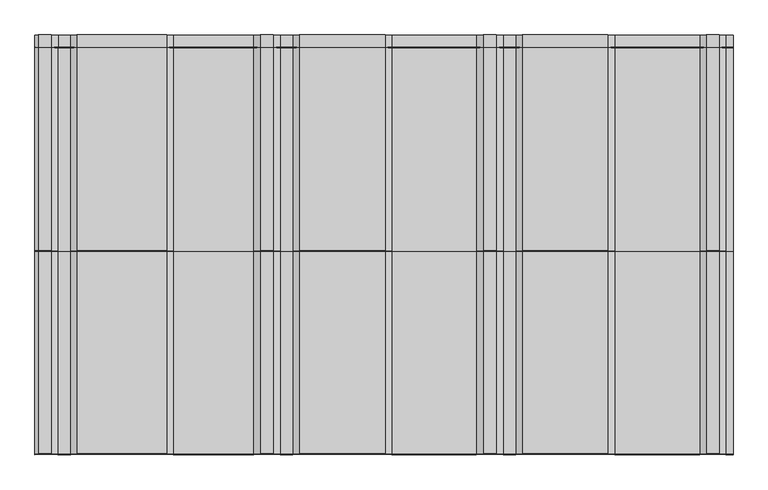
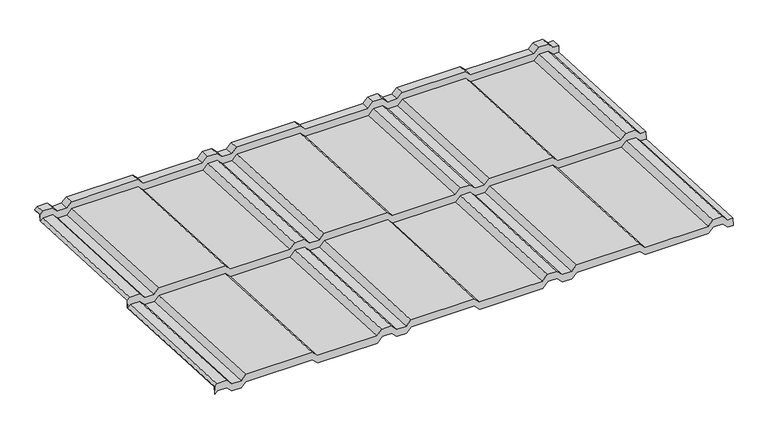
"""IFC4 building model written with IfcOpenShell, lengths in millimetres: proxy geometry, AQUAPLAST - Blachodachówka Alice : Blachodachówka Alice."""

from ifc_helpers import new_model, si_unit, origin, place, context, project, spatial, faceted_brep, source, transform, mapped, element, save


def specialty_equipment_c63bc7cf(model_context):
    return source(origin(), model_context, "Body", "Brep", [
        faceted_brep([(-571.7598776, 0.6696996, 73.5766757), (-565.8406904, 0.9640097, 79.4885417), (-543.7088996, 0.9640097, 79.4885417), (-532.2088996, 0.3922139, 68.0027657), (-510.4160064, 0.3922139, 68.0027657), (-499.4160064, 0.939149, 78.9891601), (-345.3126919, 0.939149, 78.9891601), (-333.8126919, 0.3673532, 67.5033841), (-195.7283858, 0.3673532, 67.5033841), (-183.7283858, 0.9640097, 79.4885417), (-161.9160064, 0.9640097, 79.4885417), (-149.9160064, 0.3673532, 67.5033841), (-127.9160064, 0.3673532, 67.5033841), (-116.4160064, 0.939149, 78.9891601), (30.3015709, 0.939149, 78.9891601), (41.8015709, 0.3673532, 67.5033841), (187.7172647, 0.3673532, 67.5033841), (199.7172647, 0.9640097, 79.4885417), (221.5296441, 0.9640097, 79.4885417), (233.5296441, 0.3673532, 67.5033841), (255.5296441, 0.3673532, 67.5033841), (267.0296441, 0.939149, 78.9891601), (413.7472214, 0.939149, 78.9891601), (425.2472214, 0.3673532, 67.5033841), (571.8664164, 0.3673532, 67.5033841), (583.3664164, 0.939149, 78.9891601), (605.0839936, 0.939149, 78.9891601), (616.5839936, 0.3673532, 67.5033841), (629.2401224, 0.3673532, 67.5033841), (629.2401224, -0.4629937, 50.8240399), (616.5839936, -0.4629937, 50.8240399), (605.0839936, 0.1088021, 62.3098159), (583.3664164, 0.1088021, 62.3098159), (571.8664164, -0.4629937, 50.8240399), (425.2472214, -0.4629937, 50.8240399), (413.7472214, 0.1088021, 62.3098159), (267.0296441, 0.1088021, 62.3098159), (255.5296441, -0.4629937, 50.8240399), (233.5296441, -0.4629937, 50.8240399), (221.5296441, 0.1336628, 62.8091974), (199.7172647, 0.1336628, 62.8091974), (187.7172647, -0.4629937, 50.8240399), (41.8015709, -0.4629937, 50.8240399), (30.3015709, 0.1088021, 62.3098159), (-116.4160064, 0.1088021, 62.3098159), (-127.9160064, -0.4629937, 50.8240399), (-149.9160064, -0.4629937, 50.8240399), (-161.9160064, 0.1336628, 62.8091974), (-183.7283858, 0.1336628, 62.8091974), (-195.7283858, -0.4629937, 50.8240399), (-333.8126919, -0.4629937, 50.8240399), (-345.3126919, 0.1088021, 62.3098159), (-499.4160064, 0.1088021, 62.3098159), (-510.4160064, -0.438133, 51.3234215), (-532.2088996, -0.438133, 51.3234215), (-543.7088996, 0.1336628, 62.8091974), (-565.8406904, 0.1336628, 62.8091974), (-571.7598776, -0.1606473, 56.8973315), (-566.0477972, 699.809845, 79.1155052), (-571.7598776, 699.5258325, 73.4104899), (-571.7598776, 698.711645, 57.0557437), (-566.0477972, 698.9956575, 62.760759), (-543.5017928, 698.9956575, 62.760759), (-532.0017928, 698.4238617, 51.274983), (-510.6231132, 698.4238617, 51.274983), (-499.6231132, 698.9707968, 62.2613774), (-345.1055852, 698.9707968, 62.2613774), (-333.6055852, 698.399001, 50.7756015), (-195.9354926, 698.399001, 50.7756015), (-183.9354926, 698.9956575, 62.760759), (-161.7088996, 698.9956575, 62.760759), (-149.7088996, 698.399001, 50.7756015), (-128.1231132, 698.399001, 50.7756015), (-116.6231132, 698.9707968, 62.2613774), (30.5086777, 698.9707968, 62.2613774), (42.0086777, 698.399001, 50.7756015), (187.5101579, 698.399001, 50.7756015), (199.5101579, 698.9956575, 62.760759), (221.7367509, 698.9956575, 62.760759), (233.7367509, 698.399001, 50.7756015), (255.3225373, 698.399001, 50.7756015), (266.8225373, 698.9707968, 62.2613774), (413.9543281, 698.9707968, 62.2613774), (425.4543281, 698.399001, 50.7756015), (571.6593096, 698.399001, 50.7756015), (583.1593096, 698.9707968, 62.2613774), (605.2911004, 698.9707968, 62.2613774), (616.7911004, 698.399001, 50.7756015), (629.2401224, 698.399001, 50.7756015), (629.2401224, 699.2131885, 67.1303477), (616.7911004, 699.2131885, 67.1303477), (605.2911004, 699.7849843, 78.6161237), (583.1593096, 699.7849843, 78.6161237), (571.6593096, 699.2131885, 67.1303477), (425.4543281, 699.2131885, 67.1303477), (413.9543281, 699.7849843, 78.6161237), (266.8225373, 699.7849843, 78.6161237), (255.3225373, 699.2131885, 67.1303477), (233.7367509, 699.2131885, 67.1303477), (221.7367509, 699.809845, 79.1155052), (199.5101579, 699.809845, 79.1155052), (187.5101579, 699.2131885, 67.1303477), (42.0086777, 699.2131885, 67.1303477), (30.5086777, 699.7849843, 78.6161237), (-116.6231132, 699.7849843, 78.6161237), (-128.1231132, 699.2131885, 67.1303477), (-149.7088996, 699.2131885, 67.1303477), (-161.7088996, 699.809845, 79.1155052), (-183.9354926, 699.809845, 79.1155052), (-195.9354926, 699.2131885, 67.1303477), (-333.6055852, 699.2131885, 67.1303477), (-345.1055852, 699.7849843, 78.6161237), (-499.6231132, 699.7849843, 78.6161237), (-510.6231132, 699.2380492, 67.6297293), (-532.0017928, 699.2380492, 67.6297293), (-543.5017928, 699.809845, 79.1155052), (-510.4160064, 720.1872142, 66.0861988), (-532.2088996, 720.1872142, 66.0861988), (-543.7088996, 720.75901, 77.5719748), (-565.8406904, 720.75901, 77.5719748), (-571.7598776, 720.4646999, 71.6601089), (-571.7598776, 720.4998582, 72.3663411), (-566.0477972, 720.7838707, 78.0713564), (-543.5017928, 720.7838707, 78.0713564), (-532.0017928, 720.2120749, 66.5855804), (-510.6231132, 720.2120749, 66.5855804), (-499.6231132, 720.75901, 77.5719748), (-345.1055852, 720.75901, 77.5719748), (-333.6055852, 720.1872142, 66.0861988), (-195.9354926, 720.1872142, 66.0861988), (-183.9354926, 720.7838707, 78.0713564), (-161.7088996, 720.7838707, 78.0713564), (-149.7088996, 720.1872142, 66.0861988), (-128.1231132, 720.1872142, 66.0861988), (-116.6231132, 720.75901, 77.5719748), (30.5086777, 720.75901, 77.5719748), (42.0086777, 720.1872142, 66.0861988), (187.5101579, 720.1872142, 66.0861988), (199.5101579, 720.7838707, 78.0713564), (221.7367509, 720.7838707, 78.0713564), (233.7367509, 720.1872142, 66.0861988), (255.3225373, 720.1872142, 66.0861988), (266.8225373, 720.75901, 77.5719748), (413.9543281, 720.75901, 77.5719748), (425.4543281, 720.1872142, 66.0861988), (571.6593096, 720.1872142, 66.0861988), (583.1593096, 720.75901, 77.5719748), (605.2911004, 720.75901, 77.5719748), (616.7911004, 720.1872142, 66.0861988), (629.2401224, 720.1872142, 66.0861988), (629.2401224, 720.1623535, 65.5868173), (616.5839936, 720.1623535, 65.5868173), (605.0839936, 720.7341493, 77.0725932), (583.3664164, 720.7341493, 77.0725932), (571.8664164, 720.1623535, 65.5868173), (425.2472214, 720.1623535, 65.5868173), (413.7472214, 720.7341493, 77.0725932), (267.0296441, 720.7341493, 77.0725932), (255.5296441, 720.1623535, 65.5868173), (233.5296441, 720.1623535, 65.5868173), (221.5296441, 720.75901, 77.5719748), (199.7172647, 720.75901, 77.5719748), (187.7172647, 720.1623535, 65.5868173), (41.8015709, 720.1623535, 65.5868173), (30.3015709, 720.7341493, 77.0725932), (-116.4160064, 720.7341493, 77.0725932), (-127.9160064, 720.1623535, 65.5868173), (-149.9160064, 720.1623535, 65.5868173), (-161.9160064, 720.75901, 77.5719748), (-183.7283858, 720.75901, 77.5719748), (-195.7283858, 720.1623535, 65.5868173), (-333.8126919, 720.1623535, 65.5868173), (-345.3126919, 720.7341493, 77.0725932), (-499.4160064, 720.7341493, 77.0725932), (-571.7598776, 699.6752498, 56.2997901), (-571.7598776, 700.4894373, 72.6545364), (-565.8406904, 700.7837474, 78.5664023), (-543.7088996, 700.7837474, 78.5664023), (-532.2088996, 700.2119516, 67.0806263), (-510.4160064, 700.2119516, 67.0806263), (-499.4160064, 700.7588868, 78.0670207), (-345.3126919, 700.7588868, 78.0670207), (-333.8126919, 700.187091, 66.5812448), (-195.7283858, 700.187091, 66.5812448), (-183.7283858, 700.7837474, 78.5664023), (-161.9160064, 700.7837474, 78.5664023), (-149.9160064, 700.187091, 66.5812448), (-127.9160064, 700.187091, 66.5812448), (-116.4160064, 700.7588868, 78.0670207), (30.3015709, 700.7588868, 78.0670207), (41.8015709, 700.187091, 66.5812448), (187.7172647, 700.187091, 66.5812448), (199.7172647, 700.7837474, 78.5664023), (221.5296441, 700.7837474, 78.5664023), (233.5296441, 700.187091, 66.5812448), (255.5296441, 700.187091, 66.5812448), (267.0296441, 700.7588868, 78.0670207), (413.7472214, 700.7588868, 78.0670207), (425.2472214, 700.187091, 66.5812448), (571.8664164, 700.187091, 66.5812448), (583.3664164, 700.7588868, 78.0670207), (605.0839936, 700.7588868, 78.0670207), (616.5839936, 700.187091, 66.5812448), (629.2401224, 700.187091, 66.5812448), (629.2401224, 699.3729035, 50.2264985), (616.5839936, 699.3729035, 50.2264985), (605.0839936, 699.9446993, 61.7122745), (583.3664164, 699.9446993, 61.7122745), (571.8664164, 699.3729035, 50.2264985), (425.2472214, 699.3729035, 50.2264985), (413.7472214, 699.9446993, 61.7122745), (267.0296441, 699.9446993, 61.7122745), (255.5296441, 699.3729035, 50.2264985), (233.5296441, 699.3729035, 50.2264985), (221.5296441, 699.9695599, 62.2116561), (199.7172647, 699.9695599, 62.2116561), (187.7172647, 699.3729035, 50.2264985), (41.8015709, 699.3729035, 50.2264985), (30.3015709, 699.9446993, 61.7122745), (-116.4160064, 699.9446993, 61.7122745), (-127.9160064, 699.3729035, 50.2264985), (-149.9160064, 699.3729035, 50.2264985), (-161.9160064, 699.9695599, 62.2116561), (-183.7283858, 699.9695599, 62.2116561), (-195.7283858, 699.3729035, 50.2264985), (-333.8126919, 699.3729035, 50.2264985), (-345.3126919, 699.9446993, 61.7122745), (-499.4160064, 699.9446993, 61.7122745), (-510.4160064, 699.3977641, 50.7258801), (-532.2088996, 699.3977641, 50.7258801), (-543.7088996, 699.9695599, 62.2116561), (-565.8406904, 699.9695599, 62.2116561), (-566.0477972, 349.4285629, 80.1632399), (-571.7598776, 349.1445504, 74.4582245), (-571.7598776, 348.2744263, 56.9798698), (-566.0477972, 348.5584388, 62.6848851), (-543.5017928, 348.5584388, 62.6848851), (-532.0017928, 347.986643, 51.1991092), (-510.6231132, 347.986643, 51.1991092), (-499.6231132, 348.5335781, 62.1855036), (-345.1055852, 348.5335781, 62.1855036), (-333.6055852, 347.9617823, 50.6997276), (-195.9354926, 347.9617823, 50.6997276), (-183.9354926, 348.5584388, 62.6848851), (-161.7088996, 348.5584388, 62.6848851), (-149.7088996, 347.9617823, 50.6997276), (-128.1231132, 347.9617823, 50.6997276), (-116.6231132, 348.5335781, 62.1855036), (30.5086777, 348.5335781, 62.1855036), (42.0086777, 347.9617823, 50.6997276), (187.5101579, 347.9617823, 50.6997276), (199.5101579, 348.5584388, 62.6848851), (221.7367509, 348.5584388, 62.6848851), (233.7367509, 347.9617823, 50.6997276), (255.3225373, 347.9617823, 50.6997276), (266.8225373, 348.5335781, 62.1855036), (413.9543281, 348.5335781, 62.1855036), (425.4543281, 347.9617823, 50.6997276), (571.6593096, 347.9617823, 50.6997276), (583.1593096, 348.5335781, 62.1855036), (605.2911004, 348.5335781, 62.1855036), (616.7911004, 347.9617823, 50.6997276), (629.2401224, 347.9617823, 50.6997276), (629.2401224, 348.8319064, 68.1780823), (616.7911004, 348.8319064, 68.1780823), (605.2911004, 349.4037022, 79.6638583), (583.1593096, 349.4037022, 79.6638583), (571.6593096, 348.8319064, 68.1780823), (425.4543281, 348.8319064, 68.1780823), (413.9543281, 349.4037022, 79.6638583), (266.8225373, 349.4037022, 79.6638583), (255.3225373, 348.8319064, 68.1780823), (233.7367509, 348.8319064, 68.1780823), (221.7367509, 349.4285629, 80.1632399), (199.5101579, 349.4285629, 80.1632399), (187.5101579, 348.8319064, 68.1780823), (42.0086777, 348.8319064, 68.1780823), (30.5086777, 349.4037022, 79.6638583), (-116.6231132, 349.4037022, 79.6638583), (-128.1231132, 348.8319064, 68.1780823), (-149.7088996, 348.8319064, 68.1780823), (-161.7088996, 349.4285629, 80.1632399), (-183.9354926, 349.4285629, 80.1632399), (-195.9354926, 348.8319064, 68.1780823), (-333.6055852, 348.8319064, 68.1780823), (-345.1055852, 349.4037022, 79.6638583), (-499.6231132, 349.4037022, 79.6638583), (-510.6231132, 348.8567671, 68.6774639), (-532.0017928, 348.8567671, 68.6774639), (-543.5017928, 349.4285629, 80.1632399), (629.2401224, 349.8058088, 67.6289794), (616.5839936, 349.8058088, 67.6289794), (605.0839936, 350.3776046, 79.1147554), (583.3664164, 350.3776046, 79.1147554), (571.8664164, 349.8058088, 67.6289794), (425.2472214, 349.8058088, 67.6289794), (413.7472214, 350.3776046, 79.1147554), (267.0296441, 350.3776046, 79.1147554), (255.5296441, 349.8058088, 67.6289794), (233.5296441, 349.8058088, 67.6289794), (221.5296441, 350.4024653, 79.6141369), (199.7172647, 350.4024653, 79.6141369), (187.7172647, 349.8058088, 67.6289794), (41.8015709, 349.8058088, 67.6289794), (30.3015709, 350.3776046, 79.1147554), (-116.4160064, 350.3776046, 79.1147554), (-127.9160064, 349.8058088, 67.6289794), (-149.9160064, 349.8058088, 67.6289794), (-161.9160064, 350.4024653, 79.6141369), (-183.7283858, 350.4024653, 79.6141369), (-195.7283858, 349.8058088, 67.6289794), (-333.8126919, 349.8058088, 67.6289794), (-345.3126919, 350.3776046, 79.1147554), (-499.4160064, 350.3776046, 79.1147554), (-510.4160064, 349.8306695, 68.128361), (-532.2088996, 349.8306695, 68.128361), (-543.7088996, 350.4024653, 79.6141369), (-565.8406904, 350.4024653, 79.6141369), (-571.7598776, 350.1081552, 73.702271), (-566.0477972, -0.0098927, 80.0376446), (-571.7598776, -0.2939052, 74.3326293), (-571.7598776, -1.1594105, 56.9470529), (-565.8406904, -0.8651003, 62.8589188), (-543.7088996, -0.8651003, 62.8589188), (-532.2088996, -1.4368961, 51.3731429), (-510.4160064, -1.4368961, 51.3731429), (-499.4160064, -0.889961, 62.3595373), (-345.3126919, -0.889961, 62.3595373), (-333.8126919, -1.4617568, 50.8737613), (-195.7283858, -1.4617568, 50.8737613), (-183.7283858, -0.8651003, 62.8589188), (-161.9160064, -0.8651003, 62.8589188), (-149.9160064, -1.4617568, 50.8737613), (-127.9160064, -1.4617568, 50.8737613), (-116.4160064, -0.889961, 62.3595373), (30.3015709, -0.889961, 62.3595373), (41.8015709, -1.4617568, 50.8737613), (187.7172647, -1.4617568, 50.8737613), (199.7172647, -0.8651003, 62.8589188), (221.5296441, -0.8651003, 62.8589188), (233.5296441, -1.4617568, 50.8737613), (255.5296441, -1.4617568, 50.8737613), (267.0296441, -0.889961, 62.3595373), (413.7472214, -0.889961, 62.3595373), (425.2472214, -1.4617568, 50.8737613), (571.8664164, -1.4617568, 50.8737613), (583.3664164, -0.889961, 62.3595373), (605.0839936, -0.889961, 62.3595373), (616.5839936, -1.4617568, 50.8737613), (629.2401224, -1.4617568, 50.8737613), (629.2401224, -0.6065492, 68.0524871), (616.7911004, -0.6065492, 68.0524871), (605.2911004, -0.0347534, 79.538263), (583.1593096, -0.0347534, 79.538263), (571.6593096, -0.6065492, 68.0524871), (425.4543281, -0.6065492, 68.0524871), (413.9543281, -0.0347534, 79.538263), (266.8225373, -0.0347534, 79.538263), (255.3225373, -0.6065492, 68.0524871), (233.7367509, -0.6065492, 68.0524871), (221.7367509, -0.0098927, 80.0376446), (199.5101579, -0.0098927, 80.0376446), (187.5101579, -0.6065492, 68.0524871), (42.0086777, -0.6065492, 68.0524871), (30.5086777, -0.0347534, 79.538263), (-116.6231132, -0.0347534, 79.538263), (-128.1231132, -0.6065492, 68.0524871), (-149.7088996, -0.6065492, 68.0524871), (-161.7088996, -0.0098927, 80.0376446), (-183.9354926, -0.0098927, 80.0376446), (-195.9354926, -0.6065492, 68.0524871), (-333.6055852, -0.6065492, 68.0524871), (-345.1055852, -0.0347534, 79.538263), (-499.6231132, -0.0347534, 79.538263), (-510.6231132, -0.5816885, 68.5518686), (-532.0017928, -0.5816885, 68.5518686), (-543.5017928, -0.0098927, 80.0376446), (-510.4160064, 348.9605455, 50.6500062), (-532.2088996, 348.9605455, 50.6500062), (-543.7088996, 349.5323413, 62.1357822), (-565.8406904, 349.5323413, 62.1357822), (-571.7598776, 349.2380311, 56.2239163), (629.2401224, 348.9356848, 50.1506247), (616.5839936, 348.9356848, 50.1506247), (605.0839936, 349.5074806, 61.6364006), (583.3664164, 349.5074806, 61.6364006), (571.8664164, 348.9356848, 50.1506247), (425.2472214, 348.9356848, 50.1506247), (413.7472214, 349.5074806, 61.6364006), (267.0296441, 349.5074806, 61.6364006), (255.5296441, 348.9356848, 50.1506247), (233.5296441, 348.9356848, 50.1506247), (221.5296441, 349.5323413, 62.1357822), (199.7172647, 349.5323413, 62.1357822), (187.7172647, 348.9356848, 50.1506247), (41.8015709, 348.9356848, 50.1506247), (30.3015709, 349.5074806, 61.6364006), (-116.4160064, 349.5074806, 61.6364006), (-127.9160064, 348.9356848, 50.1506247), (-149.9160064, 348.9356848, 50.1506247), (-161.9160064, 349.5323413, 62.1357822), (-183.7283858, 349.5323413, 62.1357822), (-195.7283858, 348.9356848, 50.1506247), (-333.8126919, 348.9356848, 50.1506247), (-345.3126919, 349.5074806, 61.6364006), (-499.4160064, 349.5074806, 61.6364006), (616.5839936, 347.9369216, 50.200346), (605.0839936, 348.5087174, 61.686122), (583.3664164, 348.5087174, 61.686122), (571.8664164, 347.9369216, 50.200346), (425.2472214, 347.9369216, 50.200346), (413.7472214, 348.5087174, 61.686122), (267.0296441, 348.5087174, 61.686122), (255.5296441, 347.9369216, 50.200346), (233.5296441, 347.9369216, 50.200346), (221.5296441, 348.5335781, 62.1855036), (199.7172647, 348.5335781, 62.1855036), (187.7172647, 347.9369216, 50.200346), (41.8015709, 347.9369216, 50.200346), (30.3015709, 348.5087174, 61.686122), (-116.4160064, 348.5087174, 61.686122), (-127.9160064, 347.9369216, 50.200346), (-149.9160064, 347.9369216, 50.200346), (-161.9160064, 348.5335781, 62.1855036), (-183.7283858, 348.5335781, 62.1855036), (-195.7283858, 347.9369216, 50.200346), (-333.8126919, 347.9369216, 50.200346), (-345.3126919, 348.5087174, 61.686122), (-499.4160064, 348.5087174, 61.686122), (-510.4160064, 347.9617823, 50.6997276), (-532.2088996, 347.9617823, 50.6997276), (-543.7088996, 348.5335781, 62.1855036), (-565.8406904, 348.5335781, 62.1855036), (-566.0477972, 700.8086081, 79.0657839), (-543.5017928, 700.8086081, 79.0657839), (-532.0017928, 700.2368123, 67.5800079), (-510.6231132, 700.2368123, 67.5800079), (-499.6231132, 700.7837474, 78.5664023), (-345.1055852, 700.7837474, 78.5664023), (-333.6055852, 700.2119516, 67.0806263), (-195.9354926, 700.2119516, 67.0806263), (-183.9354926, 700.8086081, 79.0657839), (-161.7088996, 700.8086081, 79.0657839), (-149.7088996, 700.2119516, 67.0806263), (-128.1231132, 700.2119516, 67.0806263), (-116.6231132, 700.7837474, 78.5664023), (30.5086777, 700.7837474, 78.5664023), (42.0086777, 700.2119516, 67.0806263), (187.5101579, 700.2119516, 67.0806263), (199.5101579, 700.8086081, 79.0657839), (221.7367509, 700.8086081, 79.0657839), (233.7367509, 700.2119516, 67.0806263), (255.3225373, 700.2119516, 67.0806263), (266.8225373, 700.7837474, 78.5664023), (413.9543281, 700.7837474, 78.5664023), (425.4543281, 700.2119516, 67.0806263), (571.6593096, 700.2119516, 67.0806263), (583.1593096, 700.7837474, 78.5664023), (605.2911004, 700.7837474, 78.5664023), (616.7911004, 700.2119516, 67.0806263)], [[[0, 1, 2, 3, 4, 5, 6, 7, 8, 9, 10, 11, 12, 13, 14, 15, 16, 17, 18, 19, 20, 21, 22, 23, 24, 25, 26, 27, 28, 29, 30, 31, 32, 33, 34, 35, 36, 37, 38, 39, 40, 41, 42, 43, 44, 45, 46, 47, 48, 49, 50, 51, 52, 53, 54, 55, 56, 57]], [[58, 59, 60, 61, 62, 63, 64, 65, 66, 67, 68, 69, 70, 71, 72, 73, 74, 75, 76, 77, 78, 79, 80, 81, 82, 83, 84, 85, 86, 87, 88, 89, 90, 91, 92, 93, 94, 95, 96, 97, 98, 99, 100, 101, 102, 103, 104, 105, 106, 107, 108, 109, 110, 111, 112, 113, 114, 115]], [[116, 117, 118, 119, 120, 121, 122, 123, 124, 125, 126, 127, 128, 129, 130, 131, 132, 133, 134, 135, 136, 137, 138, 139, 140, 141, 142, 143, 144, 145, 146, 147, 148, 149, 150, 151, 152, 153, 154, 155, 156, 157, 158, 159, 160, 161, 162, 163, 164, 165, 166, 167, 168, 169, 170, 171, 172, 173]], [[174, 175, 176, 177, 178, 179, 180, 181, 182, 183, 184, 185, 186, 187, 188, 189, 190, 191, 192, 193, 194, 195, 196, 197, 198, 199, 200, 201, 202, 203, 204, 205, 206, 207, 208, 209, 210, 211, 212, 213, 214, 215, 216, 217, 218, 219, 220, 221, 222, 223, 224, 225, 226, 227, 228, 229, 230, 231]], [[232, 233, 234, 235, 236, 237, 238, 239, 240, 241, 242, 243, 244, 245, 246, 247, 248, 249, 250, 251, 252, 253, 254, 255, 256, 257, 258, 259, 260, 261, 262, 263, 264, 265, 266, 267, 268, 269, 270, 271, 272, 273, 274, 275, 276, 277, 278, 279, 280, 281, 282, 283, 284, 285, 286, 287, 288, 289]], [[287, 64, 63, 288]], [[286, 65, 64, 287]], [[285, 66, 65, 286]], [[284, 67, 66, 285]], [[283, 68, 67, 284]], [[282, 69, 68, 283]], [[281, 70, 69, 282]], [[280, 71, 70, 281]], [[279, 72, 71, 280]], [[278, 73, 72, 279]], [[277, 74, 73, 278]], [[276, 75, 74, 277]], [[275, 76, 75, 276]], [[274, 77, 76, 275]], [[273, 78, 77, 274]], [[272, 79, 78, 273]], [[271, 80, 79, 272]], [[270, 81, 80, 271]], [[269, 82, 81, 270]], [[268, 83, 82, 269]], [[267, 84, 83, 268]], [[266, 85, 84, 267]], [[265, 86, 85, 266]], [[264, 87, 86, 265]], [[264, 263, 88, 87]], [[204, 290, 291, 205]], [[205, 291, 292, 206]], [[206, 292, 293, 207]], [[207, 293, 294, 208]], [[208, 294, 295, 209]], [[209, 295, 296, 210]], [[210, 296, 297, 211]], [[211, 297, 298, 212]], [[212, 298, 299, 213]], [[213, 299, 300, 214]], [[214, 300, 301, 215]], [[215, 301, 302, 216]], [[216, 302, 303, 217]], [[217, 303, 304, 218]], [[218, 304, 305, 219]], [[219, 305, 306, 220]], [[220, 306, 307, 221]], [[221, 307, 308, 222]], [[222, 308, 309, 223]], [[223, 309, 310, 224]], [[224, 310, 311, 225]], [[225, 311, 312, 226]], [[226, 312, 313, 227]], [[227, 313, 314, 228]], [[228, 314, 315, 229]], [[229, 315, 316, 230]], [[230, 316, 317, 231]], [[231, 317, 318, 174]], [[61, 60, 233, 232]], [[289, 62, 61, 232]], [[288, 63, 62, 289]], [[319, 320, 321, 322, 323, 324, 325, 326, 327, 328, 329, 330, 331, 332, 333, 334, 335, 336, 337, 338, 339, 340, 341, 342, 343, 344, 345, 346, 347, 348, 349, 350, 351, 352, 353, 354, 355, 356, 357, 358, 359, 360, 361, 362, 363, 364, 365, 366, 367, 368, 369, 370, 371, 372, 373, 374, 375, 376]], [[377, 378, 379, 380, 381, 318, 317, 316, 315, 314, 313, 312, 311, 310, 309, 308, 307, 306, 305, 304, 303, 302, 301, 300, 299, 298, 297, 296, 295, 294, 293, 292, 291, 290, 382, 383, 384, 385, 386, 387, 388, 389, 390, 391, 392, 393, 394, 395, 396, 397, 398, 399, 400, 401, 402, 403, 404, 405]], [[374, 238, 237, 375]], [[373, 239, 238, 374]], [[372, 240, 239, 373]], [[371, 241, 240, 372]], [[370, 242, 241, 371]], [[369, 243, 242, 370]], [[368, 244, 243, 369]], [[367, 245, 244, 368]], [[366, 246, 245, 367]], [[365, 247, 246, 366]], [[364, 248, 247, 365]], [[363, 249, 248, 364]], [[362, 250, 249, 363]], [[361, 251, 250, 362]], [[360, 252, 251, 361]], [[359, 253, 252, 360]], [[358, 254, 253, 359]], [[357, 255, 254, 358]], [[356, 256, 255, 357]], [[355, 257, 256, 356]], [[354, 258, 257, 355]], [[353, 259, 258, 354]], [[352, 260, 259, 353]], [[351, 261, 260, 352]], [[351, 350, 262, 261]], [[382, 28, 27, 406, 383]], [[383, 406, 27, 26, 407, 384]], [[384, 407, 26, 25, 408, 385]], [[385, 408, 25, 24, 409, 386]], [[386, 409, 24, 23, 410, 387]], [[387, 410, 23, 22, 411, 388]], [[388, 411, 22, 21, 412, 389]], [[389, 412, 21, 20, 413, 390]], [[390, 413, 20, 19, 414, 391]], [[391, 414, 19, 18, 415, 392]], [[392, 415, 18, 17, 416, 393]], [[393, 416, 17, 16, 417, 394]], [[394, 417, 16, 15, 418, 395]], [[395, 418, 15, 14, 419, 396]], [[396, 419, 14, 13, 420, 397]], [[397, 420, 13, 12, 421, 398]], [[398, 421, 12, 11, 422, 399]], [[399, 422, 11, 10, 423, 400]], [[400, 423, 10, 9, 424, 401]], [[401, 424, 9, 8, 425, 402]], [[402, 425, 8, 7, 426, 403]], [[403, 426, 7, 6, 427, 404]], [[404, 427, 6, 5, 428, 405]], [[405, 428, 5, 4, 429, 377]], [[377, 429, 4, 3, 430, 378]], [[378, 430, 3, 2, 431, 379]], [[379, 431, 2, 1, 432, 380]], [[432, 1, 0, 381, 380]], [[235, 234, 320, 319]], [[376, 236, 235, 319]], [[375, 237, 236, 376]], [[348, 30, 29, 349]], [[347, 31, 30, 348]], [[346, 32, 31, 347]], [[345, 33, 32, 346]], [[344, 34, 33, 345]], [[343, 35, 34, 344]], [[342, 36, 35, 343]], [[341, 37, 36, 342]], [[340, 38, 37, 341]], [[339, 39, 38, 340]], [[338, 40, 39, 339]], [[337, 41, 40, 338]], [[336, 42, 41, 337]], [[335, 43, 42, 336]], [[334, 44, 43, 335]], [[333, 45, 44, 334]], [[332, 46, 45, 333]], [[331, 47, 46, 332]], [[330, 48, 47, 331]], [[329, 49, 48, 330]], [[328, 50, 49, 329]], [[327, 51, 50, 328]], [[326, 52, 51, 327]], [[325, 53, 52, 326]], [[324, 54, 53, 325]], [[323, 55, 54, 324]], [[322, 56, 55, 323]], [[321, 57, 56, 322]], [[116, 179, 178, 117]], [[117, 178, 177, 118]], [[118, 177, 176, 119]], [[176, 175, 120, 119]], [[122, 121, 59, 58, 433]], [[115, 434, 123, 122, 433, 58]], [[114, 435, 124, 123, 434, 115]], [[113, 436, 125, 124, 435, 114]], [[112, 437, 126, 125, 436, 113]], [[111, 438, 127, 126, 437, 112]], [[110, 439, 128, 127, 438, 111]], [[109, 440, 129, 128, 439, 110]], [[108, 441, 130, 129, 440, 109]], [[107, 442, 131, 130, 441, 108]], [[106, 443, 132, 131, 442, 107]], [[105, 444, 133, 132, 443, 106]], [[104, 445, 134, 133, 444, 105]], [[103, 446, 135, 134, 445, 104]], [[102, 447, 136, 135, 446, 103]], [[101, 448, 137, 136, 447, 102]], [[100, 449, 138, 137, 448, 101]], [[99, 450, 139, 138, 449, 100]], [[98, 451, 140, 139, 450, 99]], [[97, 452, 141, 140, 451, 98]], [[96, 453, 142, 141, 452, 97]], [[95, 454, 143, 142, 453, 96]], [[94, 455, 144, 143, 454, 95]], [[93, 456, 145, 144, 455, 94]], [[92, 457, 146, 145, 456, 93]], [[91, 458, 147, 146, 457, 92]], [[90, 459, 148, 147, 458, 91]], [[459, 90, 89, 149, 148]], [[150, 203, 202, 151]], [[151, 202, 201, 152]], [[152, 201, 200, 153]], [[153, 200, 199, 154]], [[154, 199, 198, 155]], [[155, 198, 197, 156]], [[156, 197, 196, 157]], [[157, 196, 195, 158]], [[158, 195, 194, 159]], [[159, 194, 193, 160]], [[160, 193, 192, 161]], [[161, 192, 191, 162]], [[162, 191, 190, 163]], [[163, 190, 189, 164]], [[164, 189, 188, 165]], [[165, 188, 187, 166]], [[166, 187, 186, 167]], [[167, 186, 185, 168]], [[168, 185, 184, 169]], [[169, 184, 183, 170]], [[170, 183, 182, 171]], [[171, 182, 181, 172]], [[172, 181, 180, 173]], [[173, 180, 179, 116]], [[203, 150, 149, 89, 88, 263, 262, 350, 349, 29, 28, 382, 290, 204]], [[321, 320, 234, 233, 60, 59, 121, 120, 175, 174, 318, 381, 0, 57]]]),
    ])


if __name__ == "__main__":
    model = new_model("IFC4")
    model_context = context("Model", 3, world=origin())
    ifc_project = project(units=[si_unit("LENGTHUNIT", "METRE", prefix="MILLI")], contexts=[model_context])
    site = spatial("IfcSite", under=ifc_project)
    building = spatial("IfcBuilding", under=site)
    placement = place(None, origin())
    specialty_equipment_shape = specialty_equipment_c63bc7cf(model_context)
    element("IfcBuildingElementProxy", 1, Name="AQUAPLAST - Blachodachówka Alice : Blachodachówka Alice", ObjectType="AQUAPLAST - Blachodachówka Alice : Blachodachówka Alice", at=placement, inside=building, context=model_context, shape_type="MappedRepresentation", body=[
        mapped(specialty_equipment_shape, transform((0.0, 0.0, 0.0), x_axis=(1.0, 0.0, 0.0), y_axis=(0.0, 1.0, 0.0), z_axis=(0.0, 0.0, 1.0))),
    ])
    save(model, "model.ifc")
